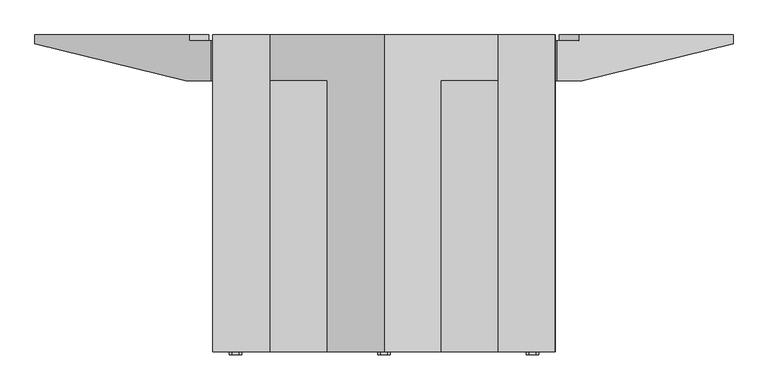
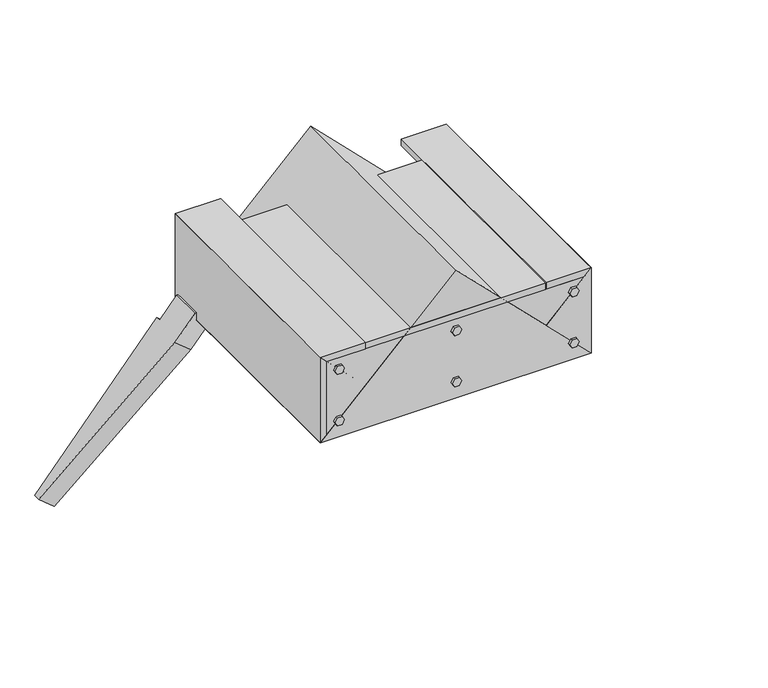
"""IFC4 building model written with IfcOpenShell, lengths in millimetres: proxy geometry, FOUNDATION^TABLE 7_10X30 PAINTED END BASE-ASSEMBLY."""

from ifc_helpers import new_model, si_unit, frame, origin, place, context, project, spatial, polyline, outline, extrude, faceted_brep, source, transform, mapped, element, save


def generic_models_a2567655(model_context):
    return source(origin(), model_context, "Body", "SolidModel", [
        extrude(outline(polyline([(-62.70625, 374.1259234), (-62.70625, 387.8740766), (-50.8, 394.7481533), (-38.89375, 387.8740766), (-38.89375, 374.1259234), (-50.8, 367.2518467), (-62.70625, 374.1259234)])), frame((0.0, -6.35, 0.0), z_axis=(0.0, 1.0, 0.0), x_axis=(0.0, 0.0, 1.0)), (0.0, 0.0, 1.0), 6.35),
        extrude(outline(polyline([(633.4125, 0.0), (128.5875, 0.0), (128.5875, 603.25), (633.4125, 603.25), (633.4125, 0.0)])), frame((0.0, 0.0, -19.05), z_axis=(0.0, 0.0, 1.0), x_axis=(1.0, 0.0, 0.0)), (0.0, 0.0, 1.0), 19.05),
        extrude(outline(polyline([(-254.0, 762.0), (0.0, 762.0), (-127.0, 635.0), (-254.0, 762.0)])), frame((0.0, 0.0, 0.0), z_axis=(0.0, 1.0, 0.0), x_axis=(0.0, 0.0, 1.0)), (0.0, 0.0, 1.0), 704.85),
        extrude(outline(polyline([(-254.0, 0.0), (-254.0, 762.0), (127.0, 381.0), (-254.0, 0.0)])), frame((0.0, 0.0, 0.0), z_axis=(0.0, 1.0, 0.0), x_axis=(0.0, 0.0, 1.0)), (0.0, 0.0, 1.0), 704.85),
        faceted_brep([(69.3285123, 692.15, -234.95), (692.6714877, 692.15, -234.95), (692.6714877, 603.25, -234.95), (69.3285123, 603.25, -234.95), (765.175, 692.15, -232.41), (-3.175, 692.15, -232.41), (-3.175, 603.25, -232.41), (765.175, 603.25, -232.41), (778.2730268, 603.25, -336.8565942), (822.0330598, 603.25, -300.0981664), (-60.0330598, 603.25, -300.0981664), (-16.2730268, 603.25, -336.8565942), (770.426204, 692.15, -327.5151384), (814.186237, 692.15, -290.7567107), (814.186237, 704.85, -290.7567107), (770.426204, 704.85, -327.5151384), (-395.2648959, 685.8, -699.1836856), (-395.2648959, 704.85, -699.1836856), (-351.5048629, 704.85, -735.9421133), (-351.5048629, 685.8, -735.9421133), (1157.2648959, 704.85, -699.1836856), (1113.5048629, 704.85, -735.9421133), (1157.2648959, 685.8, -699.1836856), (1113.5048629, 685.8, -735.9421133), (-52.186237, 704.85, -290.7567107), (-8.426204, 704.85, -327.5151384), (-8.426204, 692.15, -327.5151384), (-52.186237, 692.15, -290.7567107)], [[[0, 1, 2, 3]], [[4, 5, 6, 7]], [[8, 9, 7, 6, 10, 11, 3, 2]], [[12, 13, 14, 15]], [[16, 17, 18, 19]], [[20, 21, 15, 14]], [[20, 22, 23, 21]], [[20, 14, 13, 4, 7, 9, 22]], [[17, 24, 25, 18]], [[4, 13, 12, 1, 0, 26, 27, 5]], [[17, 16, 10, 6, 5, 27, 24]], [[11, 10, 16, 19]], [[23, 22, 9, 8]], [[25, 24, 27, 26]], [[15, 21, 23, 8, 2, 1, 12]], [[18, 25, 26, 0, 3, 11, 19]]]),
        extrude(outline(polyline([(0.0, 127.0), (0.0, 0.0), (-19.05, 19.05), (-19.05, 127.0), (0.0, 127.0)])), frame((0.0, 0.0, 0.0), z_axis=(0.0, 1.0, 0.0), x_axis=(0.0, 0.0, 1.0)), (0.0, 0.0, 1.0), 704.85),
        extrude(outline(polyline([(-215.10625, 374.1259234), (-215.10625, 387.8740766), (-203.2, 394.7481533), (-191.29375, 387.8740766), (-191.29375, 374.1259234), (-203.2, 367.2518467), (-215.10625, 374.1259234)])), frame((0.0, -6.35, 0.0), z_axis=(0.0, 1.0, 0.0), x_axis=(0.0, 0.0, 1.0)), (0.0, 0.0, 1.0), 6.35),
        extrude(outline(polyline([(-62.70625, 704.3259234), (-62.70625, 718.0740766), (-50.8, 724.9481533), (-38.89375, 718.0740766), (-38.89375, 704.3259234), (-50.8, 697.4518467), (-62.70625, 704.3259234)])), frame((0.0, -6.35, 0.0), z_axis=(0.0, 1.0, 0.0), x_axis=(0.0, 0.0, 1.0)), (0.0, 0.0, 1.0), 6.35),
        extrude(outline(polyline([(-19.05, 635.0), (-19.05, 742.95), (0.0, 762.0), (0.0, 635.0), (-19.05, 635.0)])), frame((0.0, 0.0, 0.0), z_axis=(0.0, 1.0, 0.0), x_axis=(0.0, 0.0, 1.0)), (0.0, 0.0, 1.0), 704.85),
        extrude(outline(polyline([(742.95, 0.0), (19.05, 0.0), (19.05, 25.4), (742.95, 25.4), (742.95, 0.0)])), frame((0.0, 0.0, -234.95), z_axis=(0.0, 0.0, 1.0), x_axis=(1.0, 0.0, 0.0)), (0.0, 0.0, 1.0), 215.9),
        extrude(outline(polyline([(-62.70625, 43.9259234), (-62.70625, 57.6740766), (-50.8, 64.5481533), (-38.89375, 57.6740766), (-38.89375, 43.9259234), (-50.8, 37.0518467), (-62.70625, 43.9259234)])), frame((0.0, -6.35, 0.0), z_axis=(0.0, 1.0, 0.0), x_axis=(0.0, 0.0, 1.0)), (0.0, 0.0, 1.0), 6.35),
        extrude(outline(polyline([(-215.10625, 43.9259234), (-215.10625, 57.6740766), (-203.2, 64.5481533), (-191.29375, 57.6740766), (-191.29375, 43.9259234), (-203.2, 37.0518467), (-215.10625, 43.9259234)])), frame((0.0, -6.35, 0.0), z_axis=(0.0, 1.0, 0.0), x_axis=(0.0, 0.0, 1.0)), (0.0, 0.0, 1.0), 6.35),
        extrude(outline(polyline([(-215.10625, 704.3259234), (-215.10625, 718.0740766), (-203.2, 724.9481533), (-191.29375, 718.0740766), (-191.29375, 704.3259234), (-203.2, 697.4518467), (-215.10625, 704.3259234)])), frame((0.0, -6.35, 0.0), z_axis=(0.0, 1.0, 0.0), x_axis=(0.0, 0.0, 1.0)), (0.0, 0.0, 1.0), 6.35),
        extrude(outline(polyline([(-254.0, 0.0), (-127.0, 127.0), (0.0, 0.0), (-254.0, 0.0)])), frame((0.0, 0.0, 0.0), z_axis=(0.0, 1.0, 0.0), x_axis=(0.0, 0.0, 1.0)), (0.0, 0.0, 1.0), 704.85),
    ])


if __name__ == "__main__":
    model = new_model("IFC4")
    model_context = context("Model", 3, world=origin())
    ifc_project = project(units=[si_unit("LENGTHUNIT", "METRE", prefix="MILLI")], contexts=[model_context])
    site = spatial("IfcSite", under=ifc_project)
    building = spatial("IfcBuilding", under=site)
    placement = place(None, origin())
    generic_models_shape = generic_models_a2567655(model_context)
    element("IfcBuildingElementProxy", 1, Name="FOUNDATION^TABLE 7_10X30 PAINTED END BASE-ASSEMBLY", ObjectType="FOUNDATION^TABLE 7_10X30 PAINTED END BASE-ASSEMBLY", at=placement, inside=building, context=model_context, shape_type="MappedRepresentation", body=[
        mapped(generic_models_shape, transform((0.0, 0.0, 0.0), x_axis=(1.0, 0.0, 0.0), y_axis=(0.0, 1.0, 0.0), z_axis=(0.0, 0.0, 1.0))),
    ])
    save(model, "model.ifc")
